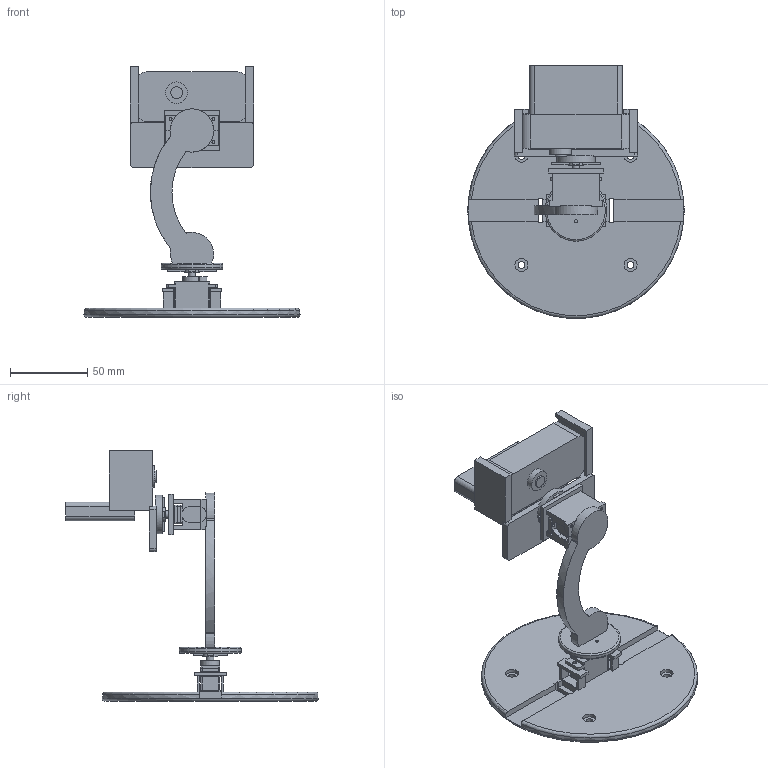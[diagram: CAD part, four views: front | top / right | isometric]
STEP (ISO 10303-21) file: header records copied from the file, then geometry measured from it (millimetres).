
FILE_DESCRIPTION(('Open CASCADE Model'),'2;1');
FILE_NAME('Open CASCADE Shape Model','2026-08-28T21:32:49',('Author'),( 'Open CASCADE'),'Open CASCADE STEP processor 7.8','Open CASCADE 7.8' ,'Unknown');
FILE_SCHEMA(('AUTOMOTIVE_DESIGN { 1 0 10303 214 1 1 1 1 }'));
Length unit declared in the file: millimetre
Products named in the file (11): C270_PanTilt_Full_Assembly_With_Servos; PanServo_StabilityBase; CurvedArm_SG90_TiltHolder; SG90_RetainingCap; Logitech_C270_ScrewlessCradle; SG90_Pan_Body; SG90_Pan_Horn; SG90_Tilt_Body; SG90_Tilt_Horn; C270_Webcam_Body; C270_Fixed_Clip
Assembly tree (10 placements, depth 2):
  C270_PanTilt_Full_Assembly_With_Servos
    PanServo_StabilityBase
    CurvedArm_SG90_TiltHolder
    SG90_RetainingCap
    Logitech_C270_ScrewlessCradle
    SG90_Pan_Body
    SG90_Pan_Horn
    SG90_Tilt_Body
    SG90_Tilt_Horn
    C270_Webcam_Body
    C270_Fixed_Clip
Bounding box: 140 x 163.64 x 162.31 mm (x, y, z)
Volume: 224785 mm3; surface area: 84700.3 mm2
Topology: 10 solids, 10 shells, 345 faces, 927 edges, 615 vertices
Faces by surface type: plane 234, cylinder 98, bspline 8, torus 5
Full cylindrical faces by diameter (mm): 1.8 x4, 1.9 x2, 2 x10, 2.2 x4, 2.4 x4, 3.2 x2, 4 x2, 4.4 x4, 4.7 x2, 7.6 x1, 8.4 x4, 9.6 x2, 14 x1, 25 x1, 40 x1, 140 x1
Entity records: 23873 total; most frequent: CARTESIAN_POINT 5417, DIRECTION 3254, LINE 1864, VECTOR 1864, ORIENTED_EDGE 1854, PCURVE 1854, DEFINITIONAL_REPRESENTATION 1854, EDGE_CURVE 927
